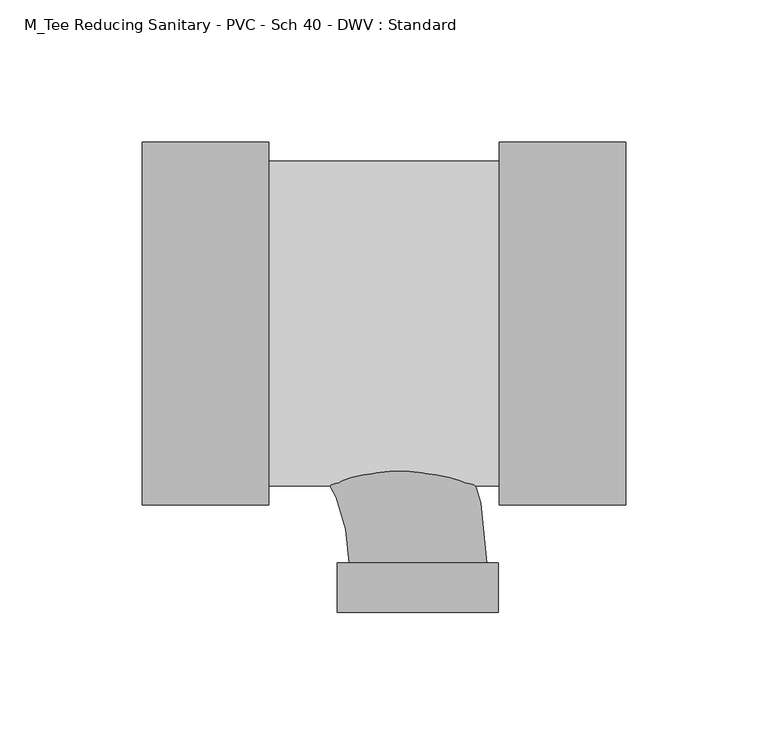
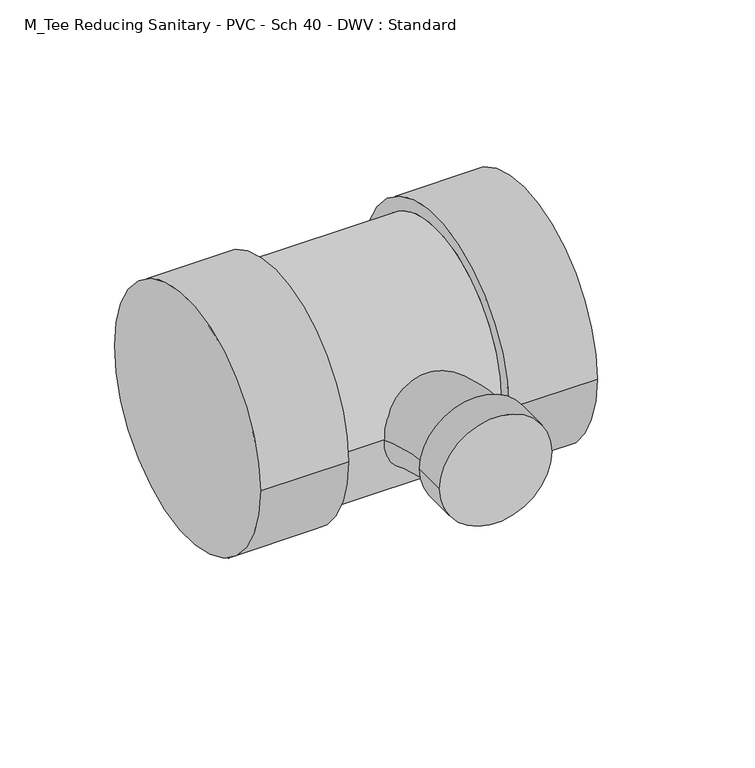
"""IFC4 building model written with IfcOpenShell, lengths in millimetres: pipe fitting geometry, M_Tee Reducing Sanitary - PVC - Sch 40 - DWV : Standard."""

from ifc_helpers import new_model, si_unit, point, frame, origin, place, context, project, spatial, circle_curve, ellipse_curve, trimmed, source, transform, mapped, element, save
from ifc_brep_helpers import plane_surface, cylinder_surface, revolved_surface, advanced_brep


def m_tee_reducing_sanitary_pvc_sch_40_dwv_standard_ac374d09(model_context):
    return source(origin(), model_context, "Body", "AdvancedBrep", [
        advanced_brep(
        [(28.575, -63.754, 0.0), (28.575, 63.754, 0.0), (28.575, -57.15, 0.0), (28.575, 57.15, 0.0), (73.025, -63.754, 0.0), (73.025, 63.754, 0.0), (-52.4002, 57.15, 0.0), (-52.4002, -57.15, 0.0), (-96.8502, -63.754, 0.0), (-96.8502, 63.754, 0.0), (-52.4002, -63.754, 0.0), (-52.4002, 63.754, 0.0)],
        [
            (0, 1, circle_curve(frame((28.575, 0.0, 0.0), z_axis=(-1.0, 0.0, 0.0), x_axis=(0.0, 1.0, 0.0)), 63.754)),
            (1, 0, circle_curve(frame((28.575, 0.0, 0.0), z_axis=(-1.0, 0.0, 0.0), x_axis=(0.0, 1.0, 0.0)), 63.754)),
            (2, 3, circle_curve(frame((28.575, 0.0, 0.0), z_axis=(1.0, 0.0, 0.0), x_axis=(0.0, 0.0, -1.0)), 57.15)),
            (3, 2, circle_curve(frame((28.575, 0.0, 0.0), z_axis=(1.0, 0.0, 0.0), x_axis=(0.0, 0.0, 1.0)), 57.15)),
            (4, 5, circle_curve(frame((73.025, 0.0, 0.0), z_axis=(1.0, 0.0, 0.0), x_axis=(0.0, 1.0, 0.0)), 63.754)),
            (5, 4, circle_curve(frame((73.025, 0.0, 0.0), z_axis=(1.0, 0.0, 0.0), x_axis=(0.0, 1.0, 0.0)), 63.754)),
            (0, 4),
            (5, 1),
            (6, 3),
            (2, 7),
            (7, 6, circle_curve(frame((-52.4002, 0.0, 0.0), z_axis=(1.0, 0.0, 0.0), x_axis=(0.0, 0.0, -1.0)), 57.15)),
            (6, 7, circle_curve(frame((-52.4002, 0.0, 0.0), z_axis=(1.0, 0.0, 0.0), x_axis=(0.0, 0.0, 1.0)), 57.15)),
            (8, 9, circle_curve(frame((-96.8502, 0.0, 0.0), z_axis=(-1.0, 0.0, 0.0), x_axis=(0.0, 1.0, 0.0)), 63.754)),
            (9, 8, circle_curve(frame((-96.8502, 0.0, 0.0), z_axis=(-1.0, 0.0, 0.0), x_axis=(0.0, 1.0, 0.0)), 63.754)),
            (10, 11, circle_curve(frame((-52.4002, 0.0, 0.0), z_axis=(1.0, 0.0, 0.0), x_axis=(0.0, 1.0, 0.0)), 63.754)),
            (11, 10, circle_curve(frame((-52.4002, 0.0, 0.0), z_axis=(1.0, 0.0, 0.0), x_axis=(0.0, 1.0, 0.0)), 63.754)),
            (8, 10),
            (11, 9),
        ],
        [
            plane_surface(frame((28.575, 0.0, 0.0), z_axis=(-1.0, 0.0, 0.0), x_axis=(0.0, 0.0, 1.0))),
            plane_surface(frame((73.025, 0.0, 0.0), z_axis=(1.0, 0.0, 0.0), x_axis=(0.0, 0.0, 1.0))),
            cylinder_surface(frame((28.575, 0.0, 0.0), z_axis=(-1.0, 0.0, 0.0), x_axis=(0.0, 1.0, 0.0)), 63.754),
            cylinder_surface(frame((-52.4002, 0.0, 0.0), z_axis=(1.0, 0.0, 0.0), x_axis=(0.0, 0.0, -1.0)), 57.15),
            cylinder_surface(frame((-52.4002, 0.0, 0.0), z_axis=(1.0, 0.0, 0.0), x_axis=(0.0, 0.0, 1.0)), 57.15),
            plane_surface(frame((-96.8502, 0.0, 0.0), z_axis=(-1.0, 0.0, 0.0), x_axis=(0.0, 0.0, 1.0))),
            plane_surface(frame((-52.4002, 0.0, 0.0), z_axis=(1.0, 0.0, 0.0), x_axis=(0.0, 0.0, 1.0))),
            cylinder_surface(frame((-96.8502, 0.0, 0.0), z_axis=(-1.0, 0.0, 0.0), x_axis=(0.0, 1.0, 0.0)), 63.754),
        ],
        [
            (0, [[1, 2], [3, 4]]),
            (1, [[5, 6]]),
            (2, [[-1, 7, -6, 8]]),
            (2, [[-2, -8, -5, -7]]),
            (3, [[9, -3, 10, 11]]),
            (4, [[-9, 12, -10, -4]]),
            (5, [[13, 14]]),
            (6, [[15, 16], [-11, -12]]),
            (7, [[-13, 17, -16, 18]]),
            (7, [[-14, -18, -15, -17]]),
        ],
    ),
        advanced_brep(
        [(-28.2829, -84.1502, 0.0), (28.2829, -84.1502, 0.0), (24.13, -84.1502, 0.0), (-24.13, -84.1502, 0.0), (-28.2829, -101.6, 0.0), (28.2829, -101.6, 0.0), (-84.1502, -24.13, 0.0), (-84.1502, 24.13, 0.0)],
        [
            (0, 1, circle_curve(frame((0.0, -84.1502, 0.0), z_axis=(0.0, 1.0, 0.0), x_axis=(1.0, 0.0, 0.0)), 28.2829)),
            (1, 0, circle_curve(frame((0.0, -84.1502, 0.0), z_axis=(0.0, 1.0, 0.0), x_axis=(1.0, 0.0, 0.0)), 28.2829)),
            (2, 3, circle_curve(frame((0.0, -84.1502, 0.0), z_axis=(0.0, -1.0, 0.0), x_axis=(1.0, 0.0, 0.0)), 24.13)),
            (3, 2, circle_curve(frame((0.0, -84.1502, 0.0), z_axis=(0.0, -1.0, 0.0), x_axis=(1.0, 0.0, 0.0)), 24.13)),
            (4, 5, circle_curve(frame((0.0, -101.6, 0.0), z_axis=(0.0, -1.0, 0.0), x_axis=(1.0, 0.0, 0.0)), 28.2829)),
            (5, 4, circle_curve(frame((0.0, -101.6, 0.0), z_axis=(0.0, -1.0, 0.0), x_axis=(1.0, 0.0, 0.0)), 28.2829)),
            (0, 4),
            (5, 1),
            (6, 7, circle_curve(frame((-84.1502, 0.0, 0.0), z_axis=(-1.0, 0.0, 0.0), x_axis=(0.0, 1.0, 0.0)), 24.13)),
            (7, 6, circle_curve(frame((-84.1502, 0.0, 0.0), z_axis=(-1.0, 0.0, 0.0), x_axis=(0.0, 1.0, 0.0)), 24.13)),
            (6, 3, circle_curve(frame((-84.1502, -84.1502, 0.0), z_axis=(0.0, 0.0, -1.0), x_axis=(0.0, 1.0, 0.0)), 60.0202)),
            (2, 7, circle_curve(frame((-84.1502, -84.1502, 0.0), z_axis=(0.0, 0.0, 1.0), x_axis=(0.0, 1.0, 0.0)), 108.2802)),
        ],
        [
            plane_surface(frame((0.0, -84.1502, 0.0), z_axis=(0.0, 1.0, 0.0), x_axis=(0.0, 0.0, 1.0))),
            plane_surface(frame((0.0, -101.6, 0.0), z_axis=(0.0, -1.0, 0.0), x_axis=(0.0, 0.0, 1.0))),
            cylinder_surface(frame((0.0, -84.1502, 0.0), z_axis=(0.0, 1.0, 0.0), x_axis=(1.0, 0.0, 0.0)), 28.2829),
            plane_surface(frame((-84.1502, 0.0, 0.0), z_axis=(-1.0, 0.0, 0.0), x_axis=(0.0, 0.0, 1.0))),
            revolved_surface(trimmed(ellipse_curve(frame((-84.1502, 0.0, 0.0), z_axis=(-1.0, 0.0, 0.0), x_axis=(0.0, 1.0, 0.0)), 24.13, 24.13), [point((-84.1502, -24.13, 0.0))], [point((-84.1502, 24.13, 0.0))], True, "CARTESIAN"), (-84.1502, -84.1502, 0.0), (0.0, 0.0, -1.0)),
            revolved_surface(trimmed(ellipse_curve(frame((-84.1502, 0.0, 0.0), z_axis=(-1.0, 0.0, 0.0), x_axis=(0.0, 1.0, 0.0)), 24.13, 24.13), [point((-84.1502, 24.13, 0.0))], [point((-84.1502, -24.13, 0.0))], True, "CARTESIAN"), (-84.1502, -84.1502, 0.0), (0.0, 0.0, -1.0)),
        ],
        [
            (0, [[1, 2], [3, 4]]),
            (1, [[5, 6]]),
            (2, [[-1, 7, -6, 8]]),
            (2, [[-2, -8, -5, -7]]),
            (3, [[9, 10]]),
            (4, [[-9, 11, -3, 12]]),
            (5, [[-10, -12, -4, -11]]),
        ],
    ),
    ])


if __name__ == "__main__":
    model = new_model("IFC4")
    model_context = context("Model", 3, world=origin())
    ifc_project = project(units=[si_unit("LENGTHUNIT", "METRE", prefix="MILLI")], contexts=[model_context])
    site = spatial("IfcSite", under=ifc_project)
    building = spatial("IfcBuilding", under=site)
    placement = place(None, origin())
    m_tee_reducing_sanitary_pvc_sch_40_dwv_standard_shape = m_tee_reducing_sanitary_pvc_sch_40_dwv_standard_ac374d09(model_context)
    element("IfcPipeFitting", 1, ObjectType="M_Tee Reducing Sanitary - PVC - Sch 40 - DWV : Standard", at=placement, inside=building, context=model_context, shape_type="MappedRepresentation", body=[
        mapped(m_tee_reducing_sanitary_pvc_sch_40_dwv_standard_shape, transform((0.0, 0.0, 0.0), x_axis=(1.0, 0.0, 0.0), y_axis=(0.0, 1.0, 0.0), z_axis=(0.0, 0.0, 1.0))),
    ])
    save(model, "model.ifc")
